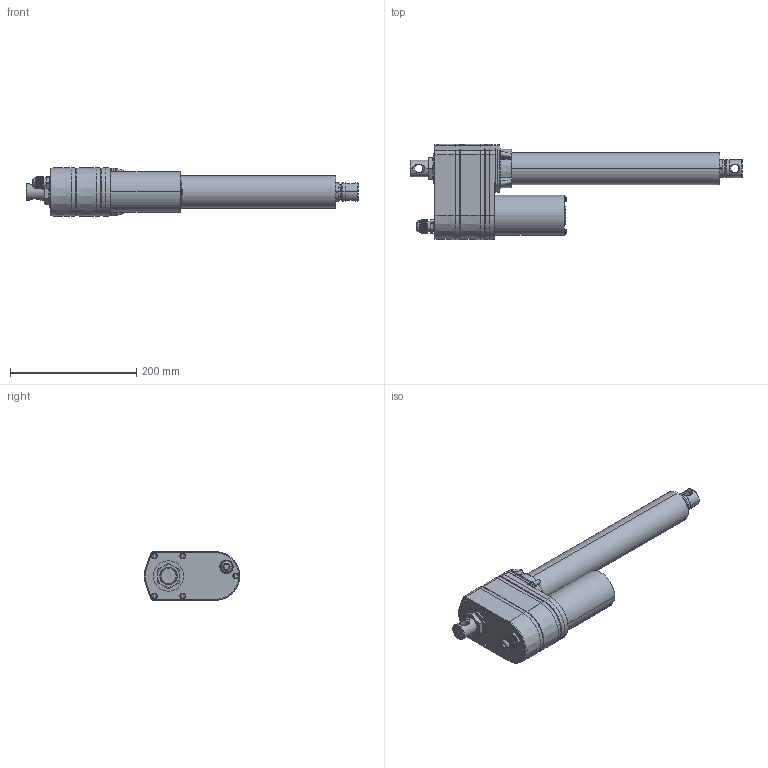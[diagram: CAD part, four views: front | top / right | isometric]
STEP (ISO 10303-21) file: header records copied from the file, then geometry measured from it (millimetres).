
FILE_DESCRIPTION((''),' ');
FILE_NAME('DSZY3-B-203-LT-LT_POT_2011_11_02.stp',' ',('Lindner'),('MSW Motion Control GmbH'),' ','ACIS 14.0',' ');
FILE_SCHEMA(('automotive_design'));
Length unit declared in the file: inch
Products named in the file (21): DSZY3-BL24_ASM|Next assembly relationship#02-1_ASM|Next assembly relationship#91;91; DSZY3-BL24_ASM|Next assembly relationship#48;48; DSZY3-BL24_ASM|Next assembly relationship#01_ASM|Next assembly relationship#19;19; DSZY3-BL24_ASM|Next assembly relationship#4;4; DSZY3-BL24_ASM|Next assembly relationship#02-1_ASM|Next assembly relationship#85;85; DSZY3-BL24_ASM|Next assembly relationship#8;8; DSZY3-BL24_ASM|Next assembly relationship#02-1_ASM|Next assembly relationship#87;87; DSZY3-BL24_ASM|Next assembly relationship#01_ASM|Next assembly relationship#20;20; DSZY3-BL24_ASM|Next assembly relationship#7_833;7_833; DSZY3-BL24_ASM|Next assembly relationship#44;44; DSZY3-BL24_ASM|Next assembly relationship#6;6; DSZY3-BL24_ASM|Next assembly relationship#02-1_ASM|Next assembly relationship#86_BODY_M12;86_BODY_M12; DSZY3-BL24_ASM|Next assembly relationship#01_ASM|Next assembly relationship#48;48; DSZY3-BL24_ASM|Next assembly relationship#01_ASM|Next assembly relationship#21;21; DSZY3-BL24_ASM|Next assembly relationship#02-1_ASM|Next assembly relationship#89;89; DSZY3-BL24_ASM|Next assembly relationship#42_A;42_A; DSZY3-BL24_ASM|Next assembly relationship#49;49
Bounding box: 526.7 x 151.65 x 77.15 mm (x, y, z)
Volume: 933704 mm3; surface area: 362971.7 mm2
Topology: 21 solids, 21 shells, 1038 faces, 2583 edges, 1606 vertices
Faces by surface type: plane 369, cylinder 313, cone 175, bspline 92, torus 79, sphere 10
Entity records: 44466 total; most frequent: CARTESIAN_POINT 11139, DIRECTION 5164, ORIENTED_EDGE 5126, EDGE_CURVE 2563, AXIS2_PLACEMENT_3D 2003, VERTEX_POINT 1606, EDGE_LOOP 1165, LINE 1158
